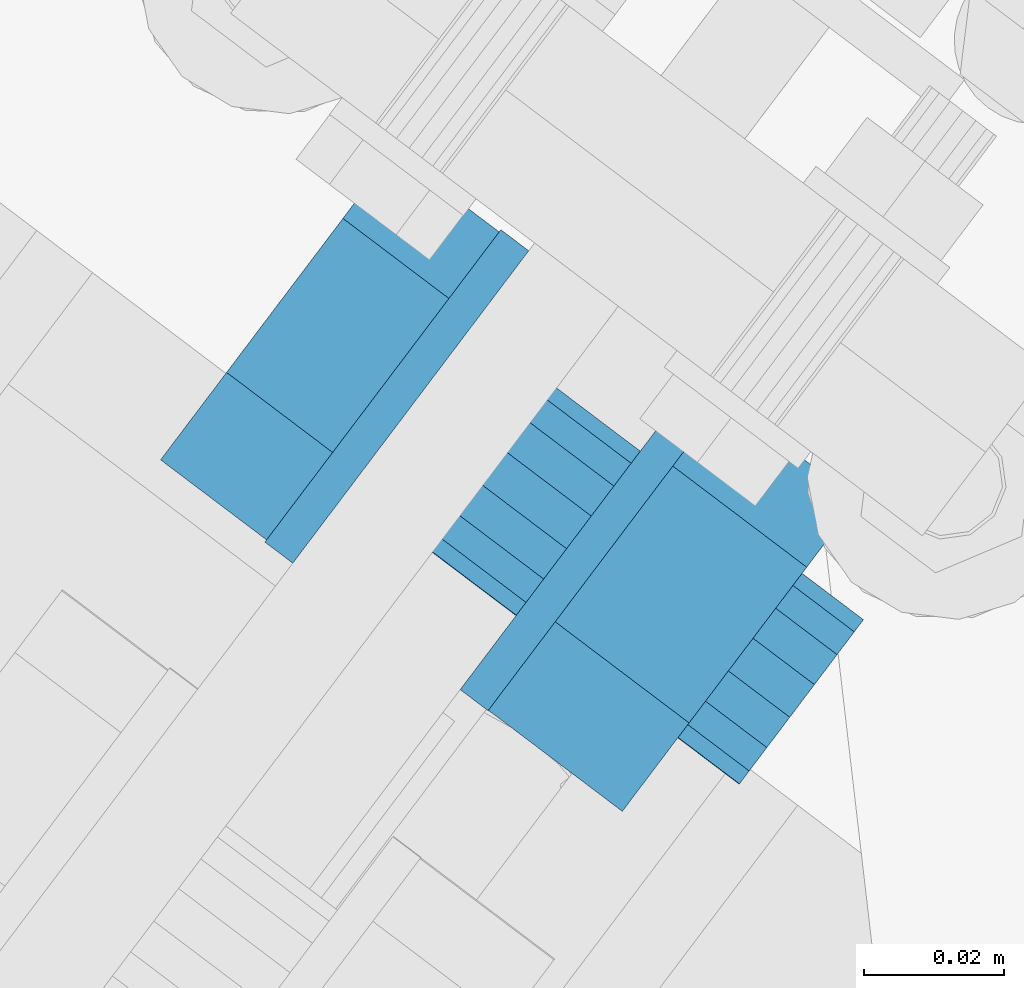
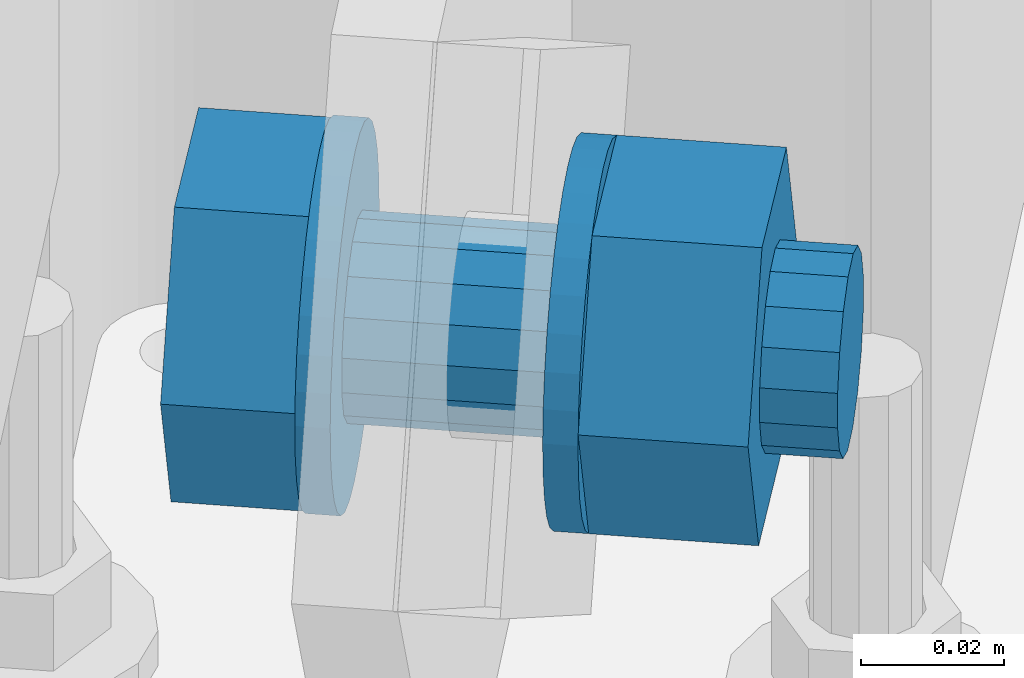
# One storey, part 280 of 476: 1 mechanical fastener.
"""IFC2X3 building model written with IfcOpenShell, lengths in millimetres."""

from ifc_helpers import new_model, entity, si_unit, converted_unit, origin_with_axes, place, context, project, spatial, faceted_brep, element, save


model = new_model("IFC2X3")

# Units and contexts
model_context = context("Model", 3, precision=1e-09, world=origin_with_axes())
ifc_project = project(units=[si_unit("LENGTHUNIT", "METRE", prefix="MILLI"), si_unit("AREAUNIT", "SQUARE_METRE"), si_unit("VOLUMEUNIT", "CUBIC_METRE"), converted_unit("PLANEANGLEUNIT", "DEGREE", entity("IfcPlaneAngleMeasure", 0.01745329), si_unit("PLANEANGLEUNIT", "RADIAN"), dimensions=[0, 0, 0, 0, 0, 0, 0])], contexts=[model_context])

# Site, building, storey
site_placement = place(None, origin_with_axes())
site = spatial("IfcSite", under=ifc_project, at=site_placement, Name="mKR Teilneubau & Sanierung BA1 - Ostfildern", CompositionType="ELEMENT")
building_placement = place(site_placement, origin_with_axes())
building = spatial("IfcBuilding", under=site, at=building_placement, Name="Struktur 1", CompositionType="ELEMENT")
storey_placement = place(building_placement, origin_with_axes())
storey = spatial("IfcBuildingStorey", under=building, at=storey_placement, Name="Default Storey", CompositionType="ELEMENT", Elevation=0.0)

# Mechanical fastener
mechanical_fastener_placement = place(None, origin_with_axes())
element("IfcMechanicalFastener", 1, at=mechanical_fastener_placement, inside=storey, ObjectType="-", NominalDiameter=30.0, NominalLength=75.0, context=model_context, shape_type="Brep", body=[
    faceted_brep([(8486.708030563, 10965.651770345, 618.016340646), (8490.697739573, 10962.638097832, 618.016340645), (8488.566481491, 10959.816590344, 613.818065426), (8484.576772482, 10962.830262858, 613.818065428), (8485.982509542, 10956.395748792, 610.390294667), (8481.992800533, 10959.409421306, 610.390294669), (8483.045124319, 10952.507034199, 607.864755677), (8479.05541531, 10955.520706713, 607.864755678), (8479.867207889, 10948.299887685, 606.338503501), (8475.87749888, 10951.313560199, 606.338503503), (8476.570885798, 10943.935987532, 605.870191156), (8472.581176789, 10946.949660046, 605.870191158), (8473.282833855, 10939.583035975, 606.477815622), (8469.293124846, 10942.596708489, 606.477815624), (8470.129410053, 10935.408314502, 608.138026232), (8466.139701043, 10938.421987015, 608.138026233), (8467.231798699, 10931.572255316, 610.787022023), (8463.24208969, 10934.58592783, 610.787022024), (8464.701353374, 10928.222276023, 614.323003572), (8460.711644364, 10931.235948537, 614.323003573), (8462.635317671, 10925.487114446, 618.610085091), (8458.645608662, 10928.50078696, 618.610085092), (8461.113088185, 10923.471881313, 623.483516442), (8457.123379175, 10926.485553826, 623.483516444), (8460.19316334, 10922.254020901, 628.756014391), (8456.20345433, 10925.267693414, 628.756014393), (8459.910895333, 10921.880334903, 634.224959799), (8455.921186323, 10924.894007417, 634.224959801), (8460.277131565, 10922.365183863, 639.680184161), (8456.287422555, 10925.378856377, 639.680184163), (8461.277797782, 10923.689935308, 644.912046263), (8457.288088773, 10926.703607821, 644.912046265), (8462.874438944, 10925.803679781, 649.71948858), (8458.884729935, 10928.817352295, 649.719488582), (8465.005697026, 10928.625187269, 653.917763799), (8461.015988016, 10931.638859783, 653.917763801), (8467.589668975, 10932.046028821, 657.345534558), (8463.599959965, 10935.059701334, 657.345534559), (8470.527054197, 10935.934743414, 659.871073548), (8466.537345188, 10938.948415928, 659.87107355), (8473.704970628, 10940.141889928, 661.397325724), (8469.715261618, 10943.155562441, 661.397325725), (8477.001292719, 10944.505790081, 661.865638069), (8473.011583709, 10947.519462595, 661.86563807), (8480.289344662, 10948.858741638, 661.258013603), (8476.299635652, 10951.872414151, 661.258013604), (8483.442768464, 10953.033463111, 659.597802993), (8479.453059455, 10956.047135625, 659.597802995), (8486.340379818, 10956.869522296, 656.948807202), (8482.350670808, 10959.88319481, 656.948807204), (8488.870825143, 10960.21950159, 653.412825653), (8484.881116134, 10963.233174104, 653.412825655), (8490.936860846, 10962.954663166, 649.125744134), (8486.947151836, 10965.96833568, 649.125744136), (8492.459090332, 10964.9698963, 644.252312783), (8488.469381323, 10967.983568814, 644.252312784), (8493.379015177, 10966.187756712, 638.979814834), (8489.389306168, 10969.201429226, 638.979814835), (8493.661283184, 10966.56144271, 633.510869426), (8489.671574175, 10969.575115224, 633.510869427), (8493.295046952, 10966.076593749, 628.055645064), (8489.305337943, 10969.090266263, 628.055645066), (8492.294380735, 10964.751842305, 622.823782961), (8488.304671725, 10967.765514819, 622.823782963)], [[[0, 1, 2, 3]], [[3, 2, 4, 5]], [[5, 4, 6, 7]], [[7, 6, 8, 9]], [[9, 8, 10, 11]], [[11, 10, 12, 13]], [[13, 12, 14, 15]], [[15, 14, 16, 17]], [[17, 16, 18, 19]], [[19, 18, 20, 21]], [[21, 20, 22, 23]], [[23, 22, 24, 25]], [[25, 24, 26, 27]], [[27, 26, 28, 29]], [[29, 28, 30, 31]], [[31, 30, 32, 33]], [[33, 32, 34, 35]], [[35, 34, 36, 37]], [[37, 36, 38, 39]], [[39, 38, 40, 41]], [[41, 40, 42, 43]], [[43, 42, 44, 45]], [[45, 44, 46, 47]], [[47, 46, 48, 49]], [[49, 48, 50, 51]], [[51, 50, 52, 53]], [[53, 52, 54, 55]], [[55, 54, 56, 57]], [[57, 56, 58, 59]], [[59, 58, 60, 61]], [[61, 60, 62, 63]], [[63, 62, 1, 0]], [[0, 3, 5, 7, 9, 11, 13, 15, 17, 19, 21, 23, 25, 27, 29, 31, 33, 35, 37, 39, 41, 43, 45, 47, 49, 51, 53, 55, 57, 59, 61, 63]], [[1, 62, 60, 58, 56, 54, 52, 50, 48, 46, 44, 42, 40, 38, 36, 34, 32, 30, 28, 26, 24, 22, 20, 18, 16, 14, 12, 10, 8, 6, 4, 2]]]),
    faceted_brep([(8456.160673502, 10925.211057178, 636.030725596), (8440.999779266, 10936.663012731, 636.030725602), (8448.188681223, 10946.180180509, 611.046682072), (8463.349575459, 10934.728224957, 611.046682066), (8464.82438797, 10968.203684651, 608.88387109), (8479.985282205, 10956.751729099, 608.883871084), (8474.27119276, 10980.710021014, 631.705103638), (8489.432086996, 10969.258065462, 631.705103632), (8467.082290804, 10971.192853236, 656.689147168), (8482.243185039, 10959.740897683, 656.689147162), (8450.446584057, 10949.169349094, 658.851958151), (8465.607478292, 10937.717393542, 658.851958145)], [[[0, 1, 2, 3]], [[3, 2, 4, 5]], [[5, 4, 6, 7]], [[7, 6, 8, 9]], [[9, 8, 10, 11]], [[11, 10, 1, 0]], [[4, 2, 1, 10, 8, 6]], [[0, 3, 5, 7, 9, 11]]]),
    faceted_brep([(8484.238693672, 10954.087300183, 625.375999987), (8508.177007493, 10936.005219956, 625.375999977), (8505.650991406, 10932.661104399, 621.290618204), (8481.712677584, 10950.743184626, 621.290618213), (8502.374936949, 10928.324035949, 619.120015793), (8478.436623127, 10946.406116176, 619.120015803), (8498.847593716, 10923.654293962, 619.194647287), (8474.909279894, 10941.736374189, 619.194647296), (8495.60596774, 10919.362804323, 621.503150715), (8471.667653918, 10937.44488455, 621.503150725), (8493.143567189, 10916.102907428, 625.694077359), (8469.205253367, 10934.184987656, 625.694077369), (8491.835270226, 10914.370893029, 631.129396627), (8467.896956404, 10932.452973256, 631.129396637), (8491.880253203, 10914.430444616, 636.981630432), (8467.941939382, 10932.512524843, 636.981630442), (8493.271667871, 10916.272496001, 642.359829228), (8469.333354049, 10934.354576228, 642.359829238), (8495.797683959, 10919.616611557, 646.445211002), (8471.859370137, 10937.698691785, 646.445211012), (8499.073738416, 10923.953680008, 648.615813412), (8475.135424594, 10942.035760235, 648.615813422), (8502.601081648, 10928.623421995, 648.541181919), (8478.662767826, 10946.705502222, 648.541181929), (8505.842707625, 10932.914911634, 646.23267849), (8481.904393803, 10950.996991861, 646.2326785), (8508.305108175, 10936.174808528, 642.041751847), (8484.366794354, 10954.256888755, 642.041751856), (8509.613405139, 10937.906822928, 636.606432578), (8485.675091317, 10955.988903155, 636.606432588), (8509.568422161, 10937.847271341, 630.754198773), (8485.630108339, 10955.929351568, 630.754198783)], [[[0, 1, 2, 3]], [[3, 2, 4, 5]], [[5, 4, 6, 7]], [[7, 6, 8, 9]], [[9, 8, 10, 11]], [[11, 10, 12, 13]], [[13, 12, 14, 15]], [[15, 14, 16, 17]], [[17, 16, 18, 19]], [[19, 18, 20, 21]], [[21, 20, 22, 23]], [[23, 22, 24, 25]], [[25, 24, 26, 27]], [[27, 26, 28, 29]], [[29, 28, 30, 31]], [[31, 30, 1, 0]], [[0, 3, 5, 7, 9, 11, 13, 15, 17, 19, 21, 23, 25, 27, 29, 31]], [[1, 30, 28, 26, 24, 22, 20, 18, 16, 14, 12, 10, 8, 6, 4, 2]]]),
    faceted_brep([(8514.635987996, 10944.556067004, 618.016340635), (8518.625697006, 10941.54239449, 618.016340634), (8516.494438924, 10938.720887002, 613.818065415), (8512.504729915, 10941.734559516, 613.818065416), (8513.910466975, 10935.30004545, 610.390294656), (8509.920757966, 10938.313717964, 610.390294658), (8510.973081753, 10931.411330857, 607.864755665), (8506.983372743, 10934.425003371, 607.864755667), (8507.795165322, 10927.204184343, 606.33850349), (8503.805456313, 10930.217856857, 606.338503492), (8504.498843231, 10922.84028419, 605.870191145), (8500.509134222, 10925.853956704, 605.870191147), (8501.210791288, 10918.487332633, 606.477815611), (8497.221082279, 10921.501005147, 606.477815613), (8498.057367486, 10914.31261116, 608.138026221), (8494.067658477, 10917.326283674, 608.138026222), (8495.159756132, 10910.476551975, 610.787022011), (8491.170047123, 10913.490224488, 610.787022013), (8492.629310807, 10907.126572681, 614.32300356), (8488.639601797, 10910.140245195, 614.323003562), (8490.563275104, 10904.391411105, 618.61008508), (8486.573566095, 10907.405083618, 618.610085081), (8489.041045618, 10902.376177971, 623.483516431), (8485.051336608, 10905.389850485, 623.483516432), (8488.121120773, 10901.158317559, 628.75601438), (8484.131411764, 10904.171990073, 628.756014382), (8487.838852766, 10900.784631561, 634.224959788), (8483.849143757, 10903.798304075, 634.22495979), (8488.205088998, 10901.269480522, 639.68018415), (8484.215379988, 10904.283153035, 639.680184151), (8489.205755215, 10902.594231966, 644.912046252), (8485.216046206, 10905.60790448, 644.912046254), (8490.802396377, 10904.707976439, 649.719488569), (8486.812687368, 10907.721648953, 649.719488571), (8492.933654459, 10907.529483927, 653.917763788), (8488.94394545, 10910.543156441, 653.917763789), (8495.517626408, 10910.950325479, 657.345534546), (8491.527917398, 10913.963997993, 657.345534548), (8498.455011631, 10914.839040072, 659.871073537), (8494.465302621, 10917.852712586, 659.871073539), (8501.632928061, 10919.046186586, 661.397325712), (8497.643219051, 10922.0598591, 661.397325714), (8504.929250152, 10923.410086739, 661.865638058), (8500.939541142, 10926.423759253, 661.865638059), (8508.217302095, 10927.763038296, 661.258013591), (8504.227593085, 10930.77671081, 661.258013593), (8511.370725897, 10931.937759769, 659.597802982), (8507.381016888, 10934.951432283, 659.597802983), (8514.268337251, 10935.773818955, 656.948807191), (8510.278628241, 10938.787491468, 656.948807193), (8516.798782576, 10939.123798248, 653.412825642), (8512.809073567, 10942.137470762, 653.412825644), (8518.864818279, 10941.858959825, 649.125744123), (8514.87510927, 10944.872632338, 649.125744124), (8520.387047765, 10943.874192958, 644.252312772), (8516.397338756, 10946.887865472, 644.252312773), (8521.30697261, 10945.09205337, 638.979814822), (8517.317263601, 10948.105725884, 638.979814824), (8521.589240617, 10945.465739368, 633.510869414), (8517.599531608, 10948.479411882, 633.510869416), (8521.223004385, 10944.980890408, 628.055645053), (8517.233295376, 10947.994562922, 628.055645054), (8520.222338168, 10943.656138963, 622.82378295), (8516.232629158, 10946.669811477, 622.823782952)], [[[0, 1, 2, 3]], [[3, 2, 4, 5]], [[5, 4, 6, 7]], [[7, 6, 8, 9]], [[9, 8, 10, 11]], [[11, 10, 12, 13]], [[13, 12, 14, 15]], [[15, 14, 16, 17]], [[17, 16, 18, 19]], [[19, 18, 20, 21]], [[21, 20, 22, 23]], [[23, 22, 24, 25]], [[25, 24, 26, 27]], [[27, 26, 28, 29]], [[29, 28, 30, 31]], [[31, 30, 32, 33]], [[33, 32, 34, 35]], [[35, 34, 36, 37]], [[37, 36, 38, 39]], [[39, 38, 40, 41]], [[41, 40, 42, 43]], [[43, 42, 44, 45]], [[45, 44, 46, 47]], [[47, 46, 48, 49]], [[49, 48, 50, 51]], [[51, 50, 52, 53]], [[53, 52, 54, 55]], [[55, 54, 56, 57]], [[57, 56, 58, 59]], [[59, 58, 60, 61]], [[61, 60, 62, 63]], [[63, 62, 1, 0]], [[0, 3, 5, 7, 9, 11, 13, 15, 17, 19, 21, 23, 25, 27, 29, 31, 33, 35, 37, 39, 41, 43, 45, 47, 49, 51, 53, 55, 57, 59, 61, 63]], [[1, 62, 60, 58, 56, 54, 52, 50, 48, 46, 44, 42, 40, 38, 36, 34, 32, 30, 28, 26, 24, 22, 20, 18, 16, 14, 12, 10, 8, 6, 4, 2]]]),
    faceted_brep([(8507.039662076, 10886.385469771, 636.055334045), (8487.889058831, 10900.851097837, 636.055334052), (8495.159756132, 10910.476551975, 610.787022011), (8514.310359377, 10896.010923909, 610.787022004), (8511.984743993, 10932.750639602, 608.59960256), (8531.135347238, 10918.285011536, 608.599602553), (8521.539034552, 10945.399273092, 631.68049515), (8540.689637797, 10930.933645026, 631.680495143), (8514.268337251, 10935.773818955, 656.948807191), (8533.418940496, 10921.308190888, 656.948807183), (8497.44334939, 10913.499731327, 659.136226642), (8516.593952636, 10899.034103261, 659.136226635)], [[[0, 1, 2, 3]], [[3, 2, 4, 5]], [[5, 4, 6, 7]], [[7, 6, 8, 9]], [[9, 8, 10, 11]], [[11, 10, 1, 0]], [[4, 2, 1, 10, 8, 6]], [[0, 3, 5, 7, 9, 11]]]),
    faceted_brep([(8531.317325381, 10918.525915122, 625.375999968), (8540.094685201, 10911.895835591, 625.375999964), (8537.568669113, 10908.551720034, 621.290618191), (8528.791309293, 10915.181799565, 621.290618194), (8534.292614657, 10904.214651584, 619.12001578), (8525.515254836, 10910.844731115, 619.120015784), (8530.765271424, 10899.544909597, 619.194647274), (8521.987911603, 10906.174989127, 619.194647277), (8527.523645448, 10895.253419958, 621.503150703), (8518.746285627, 10901.883499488, 621.503150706), (8525.061244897, 10891.993523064, 625.694077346), (8516.283885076, 10898.623602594, 625.69407735), (8523.752947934, 10890.261508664, 631.129396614), (8514.975588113, 10896.891588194, 631.129396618), (8523.797930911, 10890.321060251, 636.98163042), (8515.020571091, 10896.951139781, 636.981630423), (8525.189345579, 10892.163111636, 642.359829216), (8516.411985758, 10898.793191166, 642.359829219), (8527.715361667, 10895.507227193, 646.445210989), (8518.938001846, 10902.137306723, 646.445210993), (8530.991416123, 10899.844295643, 648.6158134), (8522.214056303, 10906.474375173, 648.615813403), (8534.518759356, 10904.51403763, 648.541181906), (8525.741399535, 10911.144117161, 648.54118191), (8537.760385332, 10908.805527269, 646.232678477), (8528.983025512, 10915.435606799, 646.232678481), (8540.222785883, 10912.065424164, 642.041751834), (8531.445426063, 10918.695503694, 642.041751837), (8541.531082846, 10913.797438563, 636.606432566), (8532.753723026, 10920.427518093, 636.606432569), (8541.486099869, 10913.737886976, 630.75419876), (8532.708740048, 10920.367966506, 630.754198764)], [[[0, 1, 2, 3]], [[3, 2, 4, 5]], [[5, 4, 6, 7]], [[7, 6, 8, 9]], [[9, 8, 10, 11]], [[11, 10, 12, 13]], [[13, 12, 14, 15]], [[15, 14, 16, 17]], [[17, 16, 18, 19]], [[19, 18, 20, 21]], [[21, 20, 22, 23]], [[23, 22, 24, 25]], [[25, 24, 26, 27]], [[27, 26, 28, 29]], [[29, 28, 30, 31]], [[31, 30, 1, 0]], [[0, 3, 5, 7, 9, 11, 13, 15, 17, 19, 21, 23, 25, 27, 29, 31]], [[1, 30, 28, 26, 24, 22, 20, 18, 16, 14, 12, 10, 8, 6, 4, 2]]]),
])

save(model, "model.ifc")
